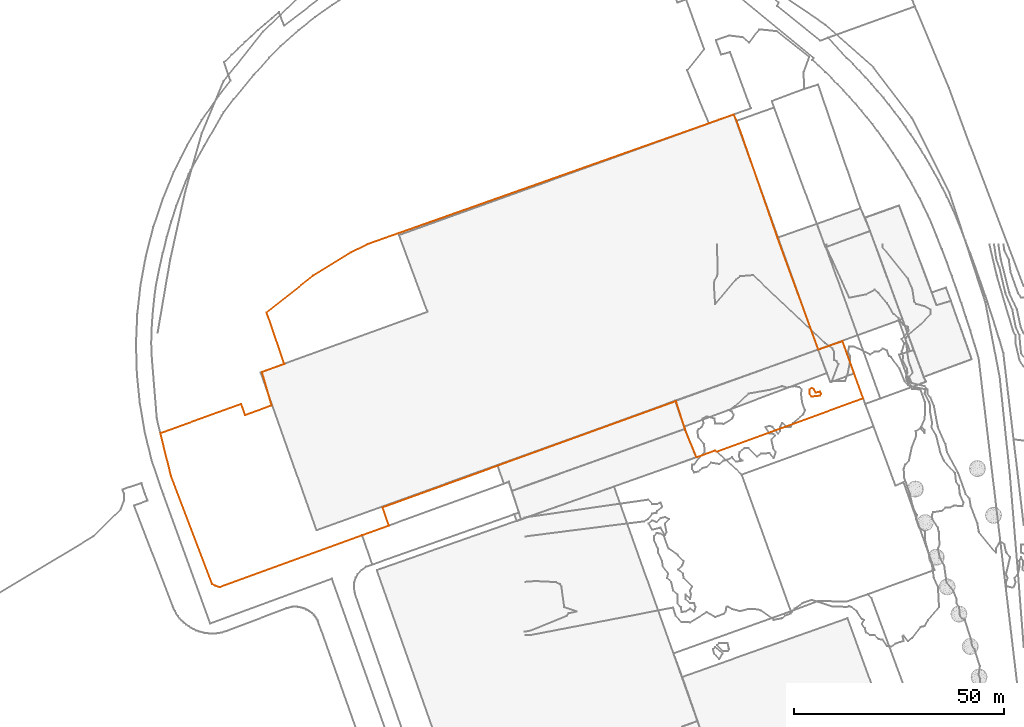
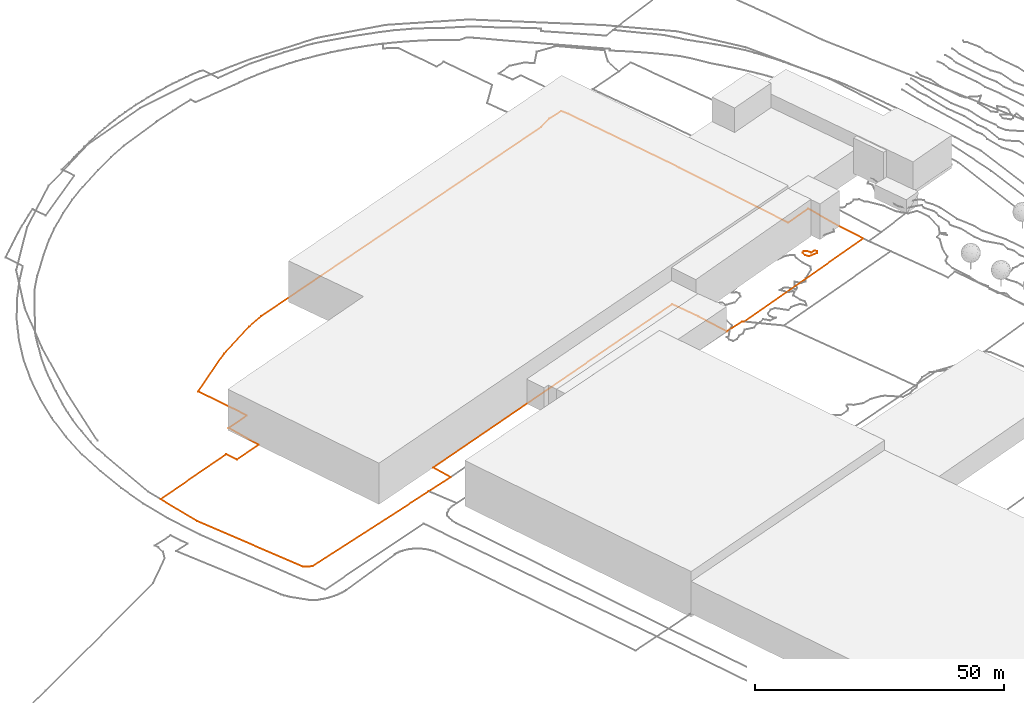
# Not in any storey, part 312 of 419: 2 proxies.
"""IFC2X3 model written with IfcOpenShell, lengths in metres."""

from ifc_helpers import new_model, entity, si_unit, frame, origin_with_axes, place, context, subcontext, project, element, save


model = new_model("IFC2X3")

# Units and contexts
model_context = context("Model", 3, precision=1e-05, world=origin_with_axes())
body_context = subcontext(model_context, "Body", "Model", "MODEL_VIEW")
ifc_project = project(units=[si_unit("AREAUNIT", "SQUARE_METRE"), si_unit("LENGTHUNIT", "METRE")], contexts=[model_context])

# Proxies
proxy_1_placement = place(None, frame((-87.2579795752, 987.4476909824, 20.1599998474), z_axis=(0.0, 0.0, 1.0), x_axis=(1.0, 0.0, 0.0)))
element("IfcBuildingElementProxy", 1, at=proxy_1_placement, Name="Cadastre 265", ObjectType="NOTDEFINED", context=body_context, shape_type="GeometricCurveSet", body=[
    entity("IfcGeometricCurveSet", [entity("IfcPolyline", [entity("IfcCartesianPoint", [13.01, -36.4199999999, 0.9696005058]), entity("IfcCartesianPoint", [12.35, -35.96, 0.9328005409]), entity("IfcCartesianPoint", [2.54, -10.25, -0.0399990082]), entity("IfcCartesianPoint", [0.0, 0.0, 0.0]), entity("IfcCartesianPoint", [19.28, 6.9700000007, 0.0202004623]), entity("IfcCartesianPoint", [20.21, 4.3200000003, 0.0100002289]), entity("IfcCartesianPoint", [26.55, 6.6299999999, 0.0200004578]), entity("IfcCartesianPoint", [24.22, 14.6200000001, 0.1067005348]), entity("IfcCartesianPoint", [29.5699999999, 16.5300000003, 0.1416002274]), entity("IfcCartesianPoint", [25.34, 28.8200000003, 0.0486994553]), entity("IfcCartesianPoint", [36.46, 37.6100000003, 0.1465995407]), entity("IfcCartesianPoint", [45.39, 43.1100000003, 0.2116007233]), entity("IfcCartesianPoint", [49.37, 45.0700000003, 0.2299995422]), entity("IfcCartesianPoint", [130.86, 73.9400000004, 0.5397009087]), entity("IfcCartesianPoint", [133.29, 74.8000000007, 1.2324004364]), entity("IfcCartesianPoint", [136.8, 76.0500000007, 1.1020003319]), entity("IfcCartesianPoint", [137.52, 74.5100000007, 1.0933002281]), entity("IfcCartesianPoint", [147.22, 46.6900000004, 1.3848004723]), entity("IfcCartesianPoint", [156.98, 19.9400000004, 0.7030746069]), entity("IfcCartesianPoint", [162.73, 21.9400000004, 0.9245519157]), entity("IfcCartesianPoint", [165.52, 14.21, 0.2952800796]), entity("IfcCartesianPoint", [167.6899999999, 8.3100000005, 0.1256489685]), entity("IfcCartesianPoint", [132.6899999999, -4.4399999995, -0.2567319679]), entity("IfcCartesianPoint", [132.38, -4.1600000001, -0.2906811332]), entity("IfcCartesianPoint", [127.88, -5.75, -0.1721906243]), entity("IfcCartesianPoint", [125.22, 0.7800000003, 0.4102451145]), entity("IfcCartesianPoint", [125.15, 1.0100000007, 0.3921801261]), entity("IfcCartesianPoint", [123.02, 7.6500000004, 0.0684896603]), entity("IfcCartesianPoint", [52.99, -17.6999999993, -0.0664996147]), entity("IfcCartesianPoint", [54.51, -22.04, -0.3292999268]), entity("IfcCartesianPoint", [48.13, -24.3599999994, -0.1452001]), entity("IfcCartesianPoint", [14.0599999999, -36.7699999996, 0.9976004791]), entity("IfcCartesianPoint", [13.01, -36.4199999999, 0.9696005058])])]),
])
proxy_2_placement = place(None, frame((67.5920304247, 996.8976909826, 20.0), z_axis=(0.0, 0.0, 1.0), x_axis=(1.0, 0.0, 0.0)))
element("IfcBuildingElementProxy", 2, at=proxy_2_placement, Name="Contour 20.0 m", ObjectType="NOTDEFINED", context=body_context, shape_type="GeometricCurveSet", body=[
    entity("IfcGeometricCurveSet", [entity("IfcPolyline", [entity("IfcCartesianPoint", [2.49999, -0.499983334, 0.0]), entity("IfcCartesianPoint", [2.7727220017, 0.0, 0.0]), entity("IfcCartesianPoint", [2.49999, 0.4285714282, 0.0]), entity("IfcCartesianPoint", [1.49999, 0.25, 0.0]), entity("IfcCartesianPoint", [1.0714185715, 1.0, 0.0]), entity("IfcCartesianPoint", [0.49999, 1.3636426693, 0.0]), entity("IfcCartesianPoint", [0.0555361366, 1.0, 0.0]), entity("IfcCartesianPoint", [0.0, 0.0, 0.0]), entity("IfcCartesianPoint", [0.49999, -0.7142779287, 0.0]), entity("IfcCartesianPoint", [2.49999, -0.499983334, 0.0])])]),
])

save(model, "model.ifc")
